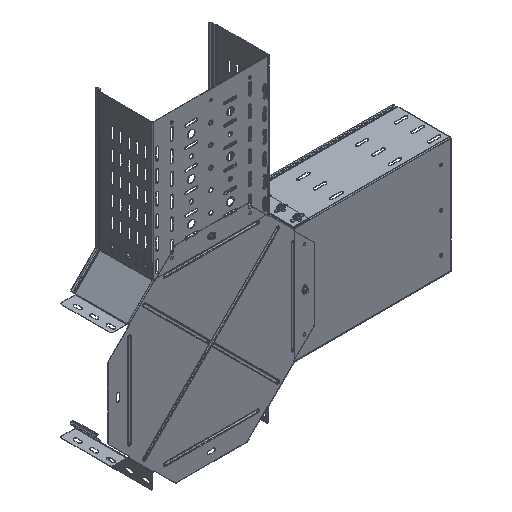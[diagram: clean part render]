
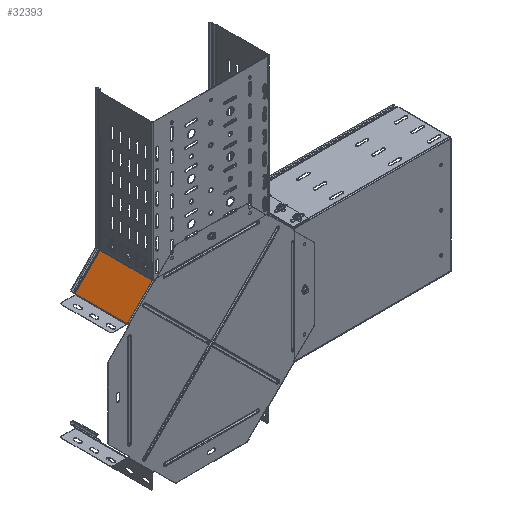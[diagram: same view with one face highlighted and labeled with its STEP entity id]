
A CAD part, isometric view. The second image highlights one B-rep face of the part: STEP entity #32393.
In plain terms, the highlighted planar face has unit normal (-0.707, 0, 0.707) as drawn and (-0.707, 0, -0.707) by its records, which use the part's own axes.
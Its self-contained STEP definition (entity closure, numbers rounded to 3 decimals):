
#674 = LINE ( 'NONE', #19122, #16699 ) ;
#2477 = VERTEX_POINT ( 'NONE', #37655 ) ;
#2970 = ORIENTED_EDGE ( 'NONE', *, *, #25697, .F. ) ;
#4326 = CARTESIAN_POINT ( 'NONE',  ( -148.939, 136.696, -476.972 ) ) ;
#5038 = EDGE_LOOP ( 'NONE', ( #2970, #38641, #28317, #32568, #40940, #29848 ) ) ;
#5383 = VERTEX_POINT ( 'NONE', #40501 ) ;
#5501 = LINE ( 'NONE', #5902, #13027 ) ;
#5902 = CARTESIAN_POINT ( 'NONE',  ( -148.939, 2.5, -476.972 ) ) ;
#6501 = DIRECTION ( 'NONE',  ( 0., 1., 0. ) ) ;
#6547 = LINE ( 'NONE', #28950, #22570 ) ;
#6800 = DIRECTION ( 'NONE',  ( 0., 1., 0. ) ) ;
#8203 = CARTESIAN_POINT ( 'NONE',  ( -148.939, 134.696, -476.972 ) ) ;
#10520 = VERTEX_POINT ( 'NONE', #27808 ) ;
#10982 = AXIS2_PLACEMENT_3D ( 'NONE', #20912, #40280, #21054 ) ;
#11823 = VERTEX_POINT ( 'NONE', #4326 ) ;
#12303 = LINE ( 'NONE', #38768, #35843 ) ;
#13027 = VECTOR ( 'NONE', #25100, 1000. ) ;
#14888 = CARTESIAN_POINT ( 'NONE',  ( -148.939, 2.5, -476.972 ) ) ;
#15808 = CARTESIAN_POINT ( 'NONE',  ( -148.939, 2.5, -476.972 ) ) ;
#16450 = VECTOR ( 'NONE', #34282, 1000. ) ;
#16699 = VECTOR ( 'NONE', #38365, 1000. ) ;
#17446 = LINE ( 'NONE', #14888, #16450 ) ;
#19122 = CARTESIAN_POINT ( 'NONE',  ( -148.939, 136.696, -476.972 ) ) ;
#20912 = CARTESIAN_POINT ( 'NONE',  ( -148.939, 2.5, -476.972 ) ) ;
#21054 = DIRECTION ( 'NONE',  ( 0.707, 0., -0.707 ) ) ;
#22570 = VECTOR ( 'NONE', #6501, 1000. ) ;
#22761 = VECTOR ( 'NONE', #24425, 1000. ) ;
#24287 = EDGE_CURVE ( 'NONE', #2477, #10520, #31339, .T. ) ;
#24425 = DIRECTION ( 'NONE',  ( 0., -1., 0. ) ) ;
#25100 = DIRECTION ( 'NONE',  ( -0.707, 0., 0.707 ) ) ;
#25697 = EDGE_CURVE ( 'NONE', #11823, #2477, #674, .T. ) ;
#27808 = CARTESIAN_POINT ( 'NONE',  ( -212.972, 134.696, -412.939 ) ) ;
#28277 = VERTEX_POINT ( 'NONE', #15808 ) ;
#28317 = ORIENTED_EDGE ( 'NONE', *, *, #35565, .F. ) ;
#28950 = CARTESIAN_POINT ( 'NONE',  ( -148.939, 2.5, -476.972 ) ) ;
#29289 = EDGE_CURVE ( 'NONE', #40923, #11823, #17446, .T. ) ;
#29848 = ORIENTED_EDGE ( 'NONE', *, *, #24287, .F. ) ;
#30776 = CARTESIAN_POINT ( 'NONE',  ( -212.972, 2.5, -412.939 ) ) ;
#31339 = LINE ( 'NONE', #30776, #22761 ) ;
#32393 = ADVANCED_FACE ( 'NONE', ( #41342 ), #33857, .T. ) ;
#32568 = ORIENTED_EDGE ( 'NONE', *, *, #36074, .T. ) ;
#33857 = PLANE ( 'NONE',  #10982 ) ;
#34282 = DIRECTION ( 'NONE',  ( 0., 1., 0. ) ) ;
#35565 = EDGE_CURVE ( 'NONE', #28277, #40923, #6547, .T. ) ;
#35843 = VECTOR ( 'NONE', #6800, 1000. ) ;
#36074 = EDGE_CURVE ( 'NONE', #28277, #5383, #5501, .T. ) ;
#37655 = CARTESIAN_POINT ( 'NONE',  ( -212.972, 136.696, -412.939 ) ) ;
#38365 = DIRECTION ( 'NONE',  ( -0.707, 0., 0.707 ) ) ;
#38641 = ORIENTED_EDGE ( 'NONE', *, *, #29289, .F. ) ;
#38768 = CARTESIAN_POINT ( 'NONE',  ( -212.972, 2.5, -412.939 ) ) ;
#39092 = EDGE_CURVE ( 'NONE', #5383, #10520, #12303, .T. ) ;
#40280 = DIRECTION ( 'NONE',  ( -0.707, 0., -0.707 ) ) ;
#40501 = CARTESIAN_POINT ( 'NONE',  ( -212.972, 2.5, -412.939 ) ) ;
#40923 = VERTEX_POINT ( 'NONE', #8203 ) ;
#40940 = ORIENTED_EDGE ( 'NONE', *, *, #39092, .T. ) ;
#41342 = FACE_OUTER_BOUND ( 'NONE', #5038, .T. ) ;
